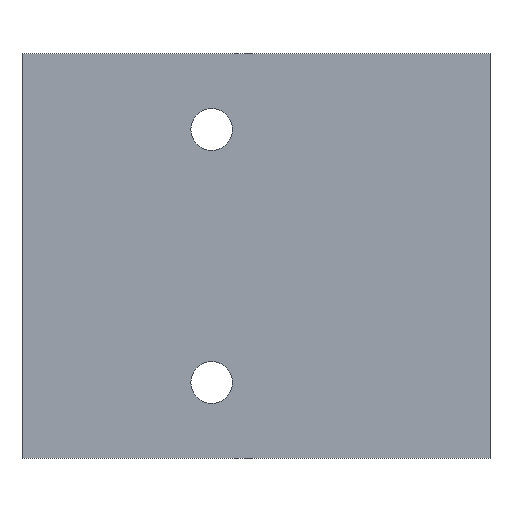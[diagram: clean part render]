
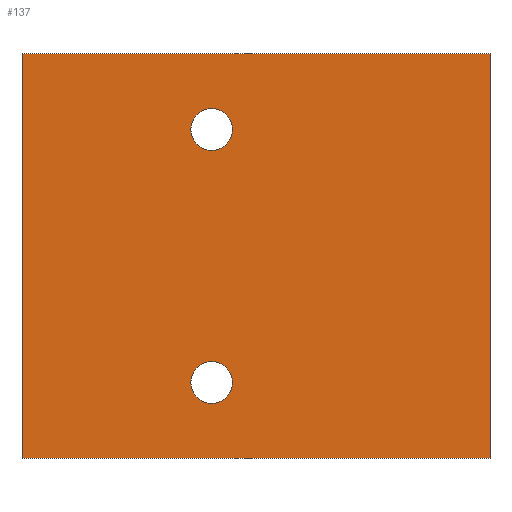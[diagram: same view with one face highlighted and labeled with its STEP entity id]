
A CAD part, front view. The second image highlights one B-rep face of the part: STEP entity #137.
In plain terms, the highlighted planar face has unit normal (0, -1, 0).
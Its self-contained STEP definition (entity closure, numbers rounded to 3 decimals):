
#21 = EDGE_CURVE('',#22,#24,#26,.T.);
#22 = VERTEX_POINT('',#23);
#23 = CARTESIAN_POINT('',(25.,-38.,-16.));
#24 = VERTEX_POINT('',#25);
#25 = CARTESIAN_POINT('',(25.,-38.,16.));
#26 = SURFACE_CURVE('',#27,(#31,#43),.PCURVE_S1.);
#27 = LINE('',#28,#29);
#28 = CARTESIAN_POINT('',(25.,-38.,-16.));
#29 = VECTOR('',#30,1.);
#30 = DIRECTION('',(0.,0.,1.));
#31 = PCURVE('',#32,#37);
#32 = PLANE('',#33);
#33 = AXIS2_PLACEMENT_3D('',#34,#35,#36);
#34 = CARTESIAN_POINT('',(25.,-38.,-16.));
#35 = DIRECTION('',(1.,0.,0.));
#36 = DIRECTION('',(0.,0.,1.));
#37 = DEFINITIONAL_REPRESENTATION('',(#38),#42);
#38 = LINE('',#39,#40);
#39 = CARTESIAN_POINT('',(0.,0.));
#40 = VECTOR('',#41,1.);
#41 = DIRECTION('',(1.,0.));
#42 = ( GEOMETRIC_REPRESENTATION_CONTEXT(2)
PARAMETRIC_REPRESENTATION_CONTEXT() REPRESENTATION_CONTEXT('2D SPACE',''
  ) );
#43 = PCURVE('',#44,#49);
#44 = PLANE('',#45);
#45 = AXIS2_PLACEMENT_3D('',#46,#47,#48);
#46 = CARTESIAN_POINT('',(25.,-38.,-16.));
#47 = DIRECTION('',(0.,1.,0.));
#48 = DIRECTION('',(0.,0.,1.));
#49 = DEFINITIONAL_REPRESENTATION('',(#50),#54);
#50 = LINE('',#51,#52);
#51 = CARTESIAN_POINT('',(0.,0.));
#52 = VECTOR('',#53,1.);
#53 = DIRECTION('',(1.,0.));
#54 = ( GEOMETRIC_REPRESENTATION_CONTEXT(2)
PARAMETRIC_REPRESENTATION_CONTEXT() REPRESENTATION_CONTEXT('2D SPACE',''
  ) );
#72 = PLANE('',#73);
#73 = AXIS2_PLACEMENT_3D('',#74,#75,#76);
#74 = CARTESIAN_POINT('',(25.,-38.,-16.));
#75 = DIRECTION('',(0.,0.,1.));
#76 = DIRECTION('',(1.,0.,0.));
#126 = PLANE('',#127);
#127 = AXIS2_PLACEMENT_3D('',#128,#129,#130);
#128 = CARTESIAN_POINT('',(25.,-38.,16.));
#129 = DIRECTION('',(0.,0.,1.));
#130 = DIRECTION('',(1.,0.,0.));
#137 = ADVANCED_FACE('',(#138,#213,#244),#44,.F.);
#138 = FACE_BOUND('',#139,.F.);
#139 = EDGE_LOOP('',(#140,#170,#191,#192));
#140 = ORIENTED_EDGE('',*,*,#141,.F.);
#141 = EDGE_CURVE('',#142,#144,#146,.T.);
#142 = VERTEX_POINT('',#143);
#143 = CARTESIAN_POINT('',(62.,-38.,-16.));
#144 = VERTEX_POINT('',#145);
#145 = CARTESIAN_POINT('',(62.,-38.,16.));
#146 = SURFACE_CURVE('',#147,(#151,#158),.PCURVE_S1.);
#147 = LINE('',#148,#149);
#148 = CARTESIAN_POINT('',(62.,-38.,-16.));
#149 = VECTOR('',#150,1.);
#150 = DIRECTION('',(0.,0.,1.));
#151 = PCURVE('',#44,#152);
#152 = DEFINITIONAL_REPRESENTATION('',(#153),#157);
#153 = LINE('',#154,#155);
#154 = CARTESIAN_POINT('',(0.,37.));
#155 = VECTOR('',#156,1.);
#156 = DIRECTION('',(1.,0.));
#157 = ( GEOMETRIC_REPRESENTATION_CONTEXT(2)
PARAMETRIC_REPRESENTATION_CONTEXT() REPRESENTATION_CONTEXT('2D SPACE',''
  ) );
#158 = PCURVE('',#159,#164);
#159 = PLANE('',#160);
#160 = AXIS2_PLACEMENT_3D('',#161,#162,#163);
#161 = CARTESIAN_POINT('',(62.,-38.,-16.));
#162 = DIRECTION('',(1.,0.,0.));
#163 = DIRECTION('',(0.,0.,1.));
#164 = DEFINITIONAL_REPRESENTATION('',(#165),#169);
#165 = LINE('',#166,#167);
#166 = CARTESIAN_POINT('',(0.,0.));
#167 = VECTOR('',#168,1.);
#168 = DIRECTION('',(1.,0.));
#169 = ( GEOMETRIC_REPRESENTATION_CONTEXT(2)
PARAMETRIC_REPRESENTATION_CONTEXT() REPRESENTATION_CONTEXT('2D SPACE',''
  ) );
#170 = ORIENTED_EDGE('',*,*,#171,.F.);
#171 = EDGE_CURVE('',#22,#142,#172,.T.);
#172 = SURFACE_CURVE('',#173,(#177,#184),.PCURVE_S1.);
#173 = LINE('',#174,#175);
#174 = CARTESIAN_POINT('',(25.,-38.,-16.));
#175 = VECTOR('',#176,1.);
#176 = DIRECTION('',(1.,0.,0.));
#177 = PCURVE('',#44,#178);
#178 = DEFINITIONAL_REPRESENTATION('',(#179),#183);
#179 = LINE('',#180,#181);
#180 = CARTESIAN_POINT('',(0.,0.));
#181 = VECTOR('',#182,1.);
#182 = DIRECTION('',(0.,1.));
#183 = ( GEOMETRIC_REPRESENTATION_CONTEXT(2)
PARAMETRIC_REPRESENTATION_CONTEXT() REPRESENTATION_CONTEXT('2D SPACE',''
  ) );
#184 = PCURVE('',#72,#185);
#185 = DEFINITIONAL_REPRESENTATION('',(#186),#190);
#186 = LINE('',#187,#188);
#187 = CARTESIAN_POINT('',(0.,0.));
#188 = VECTOR('',#189,1.);
#189 = DIRECTION('',(1.,0.));
#190 = ( GEOMETRIC_REPRESENTATION_CONTEXT(2)
PARAMETRIC_REPRESENTATION_CONTEXT() REPRESENTATION_CONTEXT('2D SPACE',''
  ) );
#191 = ORIENTED_EDGE('',*,*,#21,.T.);
#192 = ORIENTED_EDGE('',*,*,#193,.T.);
#193 = EDGE_CURVE('',#24,#144,#194,.T.);
#194 = SURFACE_CURVE('',#195,(#199,#206),.PCURVE_S1.);
#195 = LINE('',#196,#197);
#196 = CARTESIAN_POINT('',(25.,-38.,16.));
#197 = VECTOR('',#198,1.);
#198 = DIRECTION('',(1.,0.,0.));
#199 = PCURVE('',#44,#200);
#200 = DEFINITIONAL_REPRESENTATION('',(#201),#205);
#201 = LINE('',#202,#203);
#202 = CARTESIAN_POINT('',(32.,0.));
#203 = VECTOR('',#204,1.);
#204 = DIRECTION('',(0.,1.));
#205 = ( GEOMETRIC_REPRESENTATION_CONTEXT(2)
PARAMETRIC_REPRESENTATION_CONTEXT() REPRESENTATION_CONTEXT('2D SPACE',''
  ) );
#206 = PCURVE('',#126,#207);
#207 = DEFINITIONAL_REPRESENTATION('',(#208),#212);
#208 = LINE('',#209,#210);
#209 = CARTESIAN_POINT('',(0.,0.));
#210 = VECTOR('',#211,1.);
#211 = DIRECTION('',(1.,0.));
#212 = ( GEOMETRIC_REPRESENTATION_CONTEXT(2)
PARAMETRIC_REPRESENTATION_CONTEXT() REPRESENTATION_CONTEXT('2D SPACE',''
  ) );
#213 = FACE_BOUND('',#214,.F.);
#214 = EDGE_LOOP('',(#215));
#215 = ORIENTED_EDGE('',*,*,#216,.F.);
#216 = EDGE_CURVE('',#217,#217,#219,.T.);
#217 = VERTEX_POINT('',#218);
#218 = CARTESIAN_POINT('',(40.,-38.,-8.35));
#219 = SURFACE_CURVE('',#220,(#225,#232),.PCURVE_S1.);
#220 = CIRCLE('',#221,1.65);
#221 = AXIS2_PLACEMENT_3D('',#222,#223,#224);
#222 = CARTESIAN_POINT('',(40.,-38.,-10.));
#223 = DIRECTION('',(0.,1.,0.));
#224 = DIRECTION('',(0.,-0.,1.));
#225 = PCURVE('',#44,#226);
#226 = DEFINITIONAL_REPRESENTATION('',(#227),#231);
#227 = CIRCLE('',#228,1.65);
#228 = AXIS2_PLACEMENT_2D('',#229,#230);
#229 = CARTESIAN_POINT('',(6.,15.));
#230 = DIRECTION('',(1.,0.));
#231 = ( GEOMETRIC_REPRESENTATION_CONTEXT(2)
PARAMETRIC_REPRESENTATION_CONTEXT() REPRESENTATION_CONTEXT('2D SPACE',''
  ) );
#232 = PCURVE('',#233,#238);
#233 = CYLINDRICAL_SURFACE('',#234,1.65);
#234 = AXIS2_PLACEMENT_3D('',#235,#236,#237);
#235 = CARTESIAN_POINT('',(40.,-39.,-10.));
#236 = DIRECTION('',(0.,1.,0.));
#237 = DIRECTION('',(0.,-0.,1.));
#238 = DEFINITIONAL_REPRESENTATION('',(#239),#243);
#239 = LINE('',#240,#241);
#240 = CARTESIAN_POINT('',(0.,1.));
#241 = VECTOR('',#242,1.);
#242 = DIRECTION('',(1.,0.));
#243 = ( GEOMETRIC_REPRESENTATION_CONTEXT(2)
PARAMETRIC_REPRESENTATION_CONTEXT() REPRESENTATION_CONTEXT('2D SPACE',''
  ) );
#244 = FACE_BOUND('',#245,.F.);
#245 = EDGE_LOOP('',(#246));
#246 = ORIENTED_EDGE('',*,*,#247,.F.);
#247 = EDGE_CURVE('',#248,#248,#250,.T.);
#248 = VERTEX_POINT('',#249);
#249 = CARTESIAN_POINT('',(40.,-38.,11.65));
#250 = SURFACE_CURVE('',#251,(#256,#263),.PCURVE_S1.);
#251 = CIRCLE('',#252,1.65);
#252 = AXIS2_PLACEMENT_3D('',#253,#254,#255);
#253 = CARTESIAN_POINT('',(40.,-38.,10.));
#254 = DIRECTION('',(0.,1.,0.));
#255 = DIRECTION('',(0.,-0.,1.));
#256 = PCURVE('',#44,#257);
#257 = DEFINITIONAL_REPRESENTATION('',(#258),#262);
#258 = CIRCLE('',#259,1.65);
#259 = AXIS2_PLACEMENT_2D('',#260,#261);
#260 = CARTESIAN_POINT('',(26.,15.));
#261 = DIRECTION('',(1.,0.));
#262 = ( GEOMETRIC_REPRESENTATION_CONTEXT(2)
PARAMETRIC_REPRESENTATION_CONTEXT() REPRESENTATION_CONTEXT('2D SPACE',''
  ) );
#263 = PCURVE('',#264,#269);
#264 = CYLINDRICAL_SURFACE('',#265,1.65);
#265 = AXIS2_PLACEMENT_3D('',#266,#267,#268);
#266 = CARTESIAN_POINT('',(40.,-39.,10.));
#267 = DIRECTION('',(0.,1.,0.));
#268 = DIRECTION('',(0.,-0.,1.));
#269 = DEFINITIONAL_REPRESENTATION('',(#270),#274);
#270 = LINE('',#271,#272);
#271 = CARTESIAN_POINT('',(0.,1.));
#272 = VECTOR('',#273,1.);
#273 = DIRECTION('',(1.,0.));
#274 = ( GEOMETRIC_REPRESENTATION_CONTEXT(2)
PARAMETRIC_REPRESENTATION_CONTEXT() REPRESENTATION_CONTEXT('2D SPACE',''
  ) );
